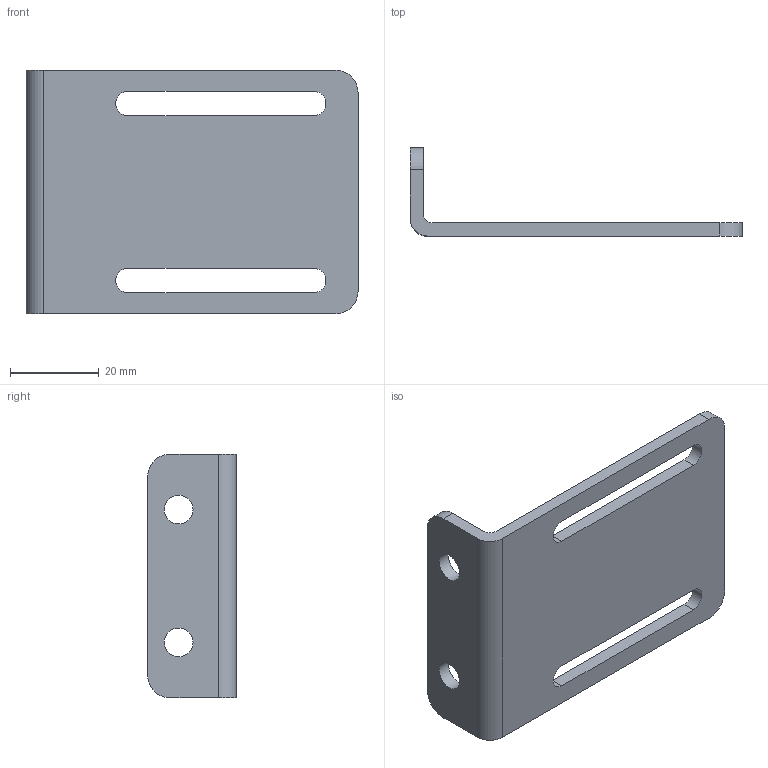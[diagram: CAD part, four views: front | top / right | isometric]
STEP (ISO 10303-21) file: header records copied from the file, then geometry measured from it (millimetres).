
FILE_DESCRIPTION (( 'STEP AP214' ), '1' );
FILE_NAME ('N20703.step', '2024-12-03T16:26:14', ( '' ), ( '' ), 'SwSTEP 2.0', 'SolidWorks 2023', '' );
FILE_SCHEMA (( 'AUTOMOTIVE_DESIGN' ));
Length unit declared in the file: millimetre
Products named in the file (1): N20703
Bounding box: 75 x 20 x 55 mm (x, y, z)
Volume: 13246.3 mm3; surface area: 10365 mm2
Topology: 1 solids, 1 shells, 24 faces, 68 edges, 46 vertices
Faces by surface type: plane 12, cylinder 12
Full cylindrical faces by diameter (mm): 6.5 x2
Entity records: 803 total; most frequent: DIRECTION 138, CARTESIAN_POINT 133, ORIENTED_EDGE 128, EDGE_CURVE 64, AXIS2_PLACEMENT_3D 49, VERTEX_POINT 44, VECTOR 40, LINE 40
